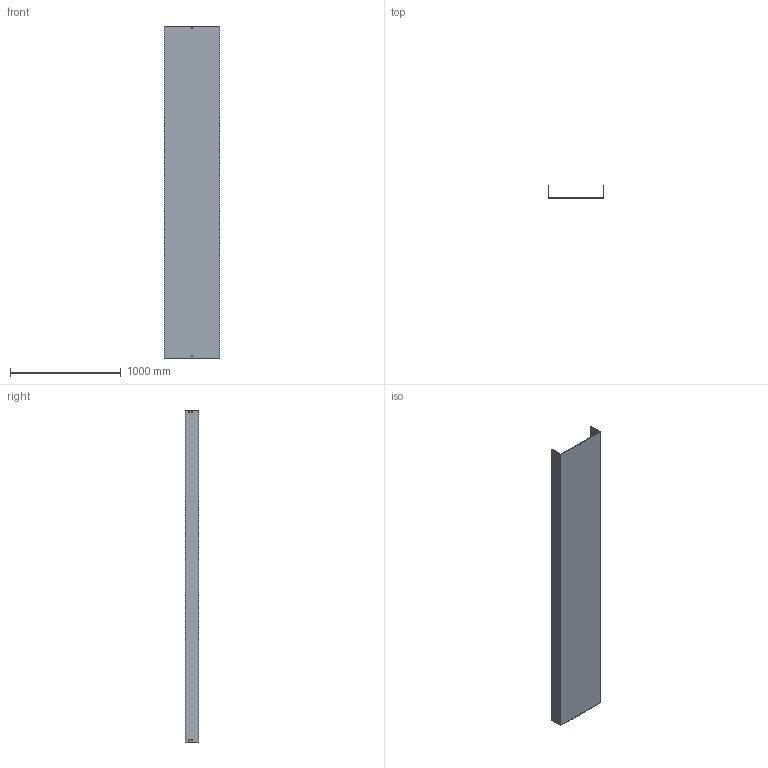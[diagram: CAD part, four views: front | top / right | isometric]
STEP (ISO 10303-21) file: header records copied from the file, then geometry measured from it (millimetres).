
FILE_DESCRIPTION (( 'STEP AP214' ), '1' );
FILE_NAME ('03B3J500.step', '2025-02-21T10:09:14', ( '' ), ( '' ), 'SwSTEP 2.0', 'SolidWorks 2023', '' );
FILE_SCHEMA (( 'AUTOMOTIVE_DESIGN' ));
Length unit declared in the file: millimetre
Products named in the file (1): 03B3J500
Bounding box: 504 x 117.5 x 3000 mm (x, y, z)
Volume: 7683630.5 mm3; surface area: 4417939 mm2
Topology: 1 solids, 1 shells, 50 faces, 144 edges, 96 vertices
Faces by surface type: plane 50
Entity records: 1671 total; most frequent: CARTESIAN_POINT 291, ORIENTED_EDGE 288, DIRECTION 246, VECTOR 144, EDGE_CURVE 144, LINE 144, VERTEX_POINT 96, EDGE_LOOP 70
